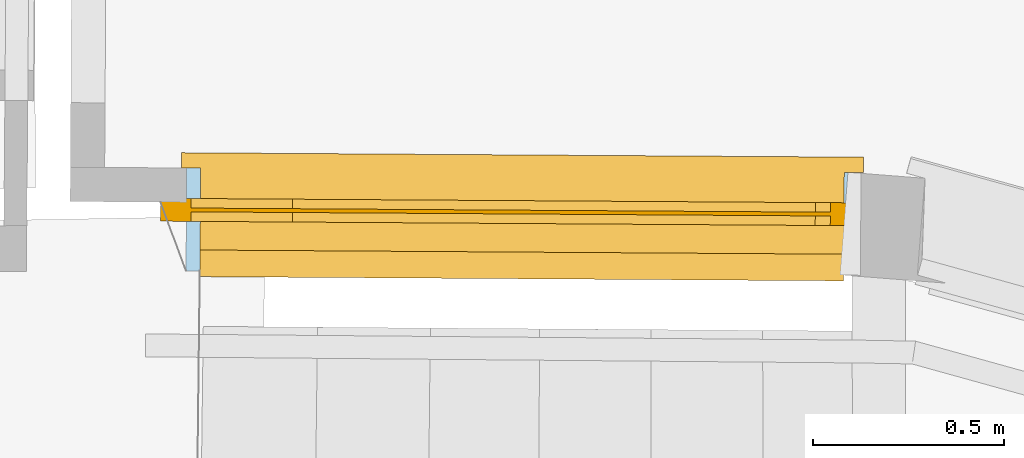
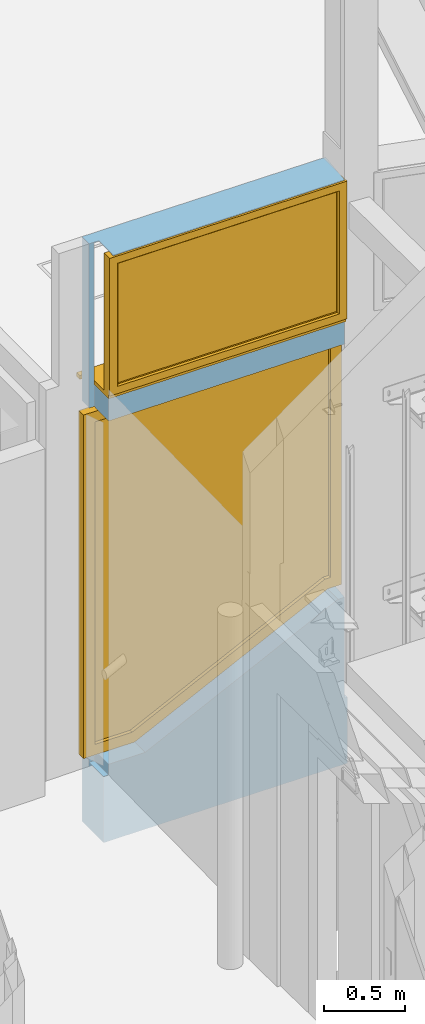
# One storey, part 101 of 133: 2 windows, 2 openings, plus 1 element that does not belong to this part.
"""IFC2X3 building model written with IfcOpenShell, lengths in centimetres."""

from ifc_helpers import new_model, entity, si_unit, converted_unit, direction, frame, origin, origin_with_axes, origin_2d_with_axis, place, context, subcontext, project, spatial, polyline, rectangle, outline, extrude, clip, bounded_halfspace, faceted_brep, shape, source, transform, mapped, material, material_list, layer, layer_set, layer_usage, type_object, element, fill, save


model = new_model("IFC2X3")

# Units and contexts
model_context = context("Model", 3, precision=0.0001, world=origin(), true_north=direction((0.225632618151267, 0.974212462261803, 0.0)))
body_context = subcontext(model_context, "Body", "Model", "MODEL_VIEW")
footprint_context = subcontext(model_context, "FootPrint", "Model", "MODEL_VIEW")
profile_context = subcontext(model_context, "Profile", "Model", "MODEL_VIEW")
ifc_project = project(units=[si_unit("LENGTHUNIT", "METRE", prefix="CENTI"), si_unit("AREAUNIT", "SQUARE_METRE", prefix="CENTI"), si_unit("VOLUMEUNIT", "CUBIC_METRE", prefix="CENTI"), converted_unit("PLANEANGLEUNIT", "DEGREE", entity("IfcRatioMeasure", 0.0174532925), si_unit("PLANEANGLEUNIT", "RADIAN"), dimensions=[0, 0, 0, 0, 0, 0, 0])], contexts=[model_context])

# Site, building, storey
site_placement = place(None, origin_with_axes())
site = spatial("IfcSite", under=ifc_project, at=site_placement, Name="Default Site", CompositionType="ELEMENT")
building_placement = place(site_placement, origin_with_axes())
building = spatial("IfcBuilding", under=site, at=building_placement, Name="Default Building", CompositionType="ELEMENT")
storey_placement = place(building_placement, frame((0.0, 0.0, -291.400371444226), z_axis=(0.0, 0.0, 1.0), x_axis=(1.0, 0.0, 0.0)))
storey = spatial("IfcBuildingStorey", under=building, at=storey_placement, Name="Rez-de-Jardin", CompositionType="ELEMENT", Elevation=-291.400371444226)

# Wall, openings, windows
ifc_material_1 = material(Name="<aucun>")
ifc_layer = layer(ifc_material_1, 27.0)
ifc_layer_set = layer_set([ifc_layer], Name="default")
ifc_layer_usage = layer_usage(ifc_layer_set, "AXIS2", "POSITIVE", -13.5)
wall_type = type_object("IfcWallType", Name="default 270", PredefinedType="NOTDEFINED", material=ifc_layer_set)
wall_placement = place(storey_placement, frame((1291.19052133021, -210.946666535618, -50.0), z_axis=(0.0, 0.0, 1.0), x_axis=(-0.999978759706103, 0.00651767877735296, 0.0)))
wall = element("IfcWallStandardCase", 1, at=wall_placement, inside=storey, type_object=wall_type, material=ifc_layer_usage, Name="Enveloppe 777845", context=body_context, shape_type="Clipping", body=[
    clip(clip(clip(clip(extrude(rectangle(XDim=27.0, YDim=173.550623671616, at=origin_2d_with_axis()), frame((86.7753118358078, 3.99680288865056e-13, 1.33226762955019e-13), z_axis=(0.0, 0.0, 1.0), x_axis=(0.0, -1.0, 0.0)), (0.0, 0.0, 1.0), 441.400371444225), bounded_halfspace(frame((169.907845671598, 13.5000000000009, 49.9999999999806), z_axis=(0.0, 0.0, -1.0), x_axis=(-0.00525194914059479, -0.999986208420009, 0.0)), True, frame((169.907845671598, 13.5000000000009, 49.9999999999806), z_axis=(0.0, 0.0, 1.0), x_axis=(1.0, 0.0, 0.0)), polyline([(-0.0945363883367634, -18.0000000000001), (3.64277800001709, -18.0), (3.64277800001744, 0.0), (0.0, 4.44089209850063e-14), (-0.0945363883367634, -18.0000000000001)]))), bounded_halfspace(frame((0.966032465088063, 13.5, 49.9999999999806), z_axis=(0.0, 0.0, -1.0), x_axis=(0.997443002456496, -0.0714664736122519, 0.0)), True, frame((0.966032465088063, 13.5, 49.9999999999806), z_axis=(0.0, 0.0, 1.0), x_axis=(1.0, 0.0, 0.0)), polyline([(0.0, 0.0), (0.963562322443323, -0.0690389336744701), (0.968508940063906, 0.0), (0.0, 0.0)]))), bounded_halfspace(frame((1.77635683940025e-13, -13.5, 49.9999999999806), z_axis=(0.0, 0.0, -1.0), x_axis=(0.0714664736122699, 0.997443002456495, 0.0)), True, frame((1.77635683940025e-13, -13.5, 49.9999999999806), z_axis=(0.0, 0.0, 1.0), x_axis=(1.0, 0.0, 0.0)), polyline([(1.77635683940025e-13, 2.22044604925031e-14), (1.92959478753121, 26.9309610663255), (0.966032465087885, 27.0), (-1.77635683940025e-13, 27.0), (1.77635683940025e-13, 2.22044604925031e-14)]))), bounded_halfspace(frame((169.907845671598, 13.5000000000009, 341.413221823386), z_axis=(0.0, 0.0, -1.0), x_axis=(-1.0, 1.53800583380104e-14, 0.0)), True, frame((169.907845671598, 13.5000000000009, 341.413221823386), z_axis=(0.0, 0.0, 1.0), x_axis=(1.0, 0.0, 0.0)), polyline([(-3.48228520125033, -18.0000000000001), (-0.0945363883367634, -18.0000000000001), (0.0, 4.44089209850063e-14), (-3.33606360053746, 0.0), (-3.48228520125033, -18.0000000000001)]))),
])
opening_1_placement = place(wall_placement, frame((143.860171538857, 7.38964445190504e-13, 58.0000000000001), z_axis=(0.0, 0.0, 1.0), x_axis=(-1.0, -5.08187242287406e-15, 0.0)))
cartesian_point_1 = entity("IfcCartesianPoint", [147.30105631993, 4.44089209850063e-14, 259.500001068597])
cartesian_point_2 = entity("IfcCartesianPoint", [-36.4652544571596, -13.5])
opening_1 = element("IfcOpeningElement", 2, at=opening_1_placement, cuts=wall, Name="4294966503_17", ObjectType="Opening", shapes=[
    shape(body_context, "Body", "SweptSolid", [extrude(outline(polyline([(-147.30105631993, 259.500001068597), (-147.30105631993, 68.1000010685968), (-137.232650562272, 68.1000010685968), (1.77635683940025e-13, 0.0), (36.4652544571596, 0.0), (36.4652544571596, 259.500001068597), (-147.30105631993, 259.500001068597)])), frame((0.0, -23.5, 0.0), z_axis=(0.0, 1.0, 0.0), x_axis=(-1.0, 0.0, 0.0)), (0.0, 0.0, 1.0), 47.0)]),
    shape(profile_context, "Profile", "GeometricCurveSet", [entity("IfcGeometricCurveSet", [entity("IfcPolyline", [cartesian_point_1, entity("IfcCartesianPoint", [147.30105631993, 4.44089209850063e-14, 68.1000010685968]), entity("IfcCartesianPoint", [137.232650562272, 0.0, 68.1000010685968]), entity("IfcCartesianPoint", [0.0, 0.0, 0.0]), entity("IfcCartesianPoint", [-36.4652544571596, 0.0, 0.0]), entity("IfcCartesianPoint", [-36.4652544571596, 0.0, 259.500001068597]), cartesian_point_1])])]),
    shape(footprint_context, "FootPrint", "GeometricCurveSet", [entity("IfcGeometricCurveSet", [entity("IfcPolyline", [cartesian_point_2, entity("IfcCartesianPoint", [147.30105631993, -13.5]), entity("IfcCartesianPoint", [147.30105631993, 13.5]), entity("IfcCartesianPoint", [-36.4652544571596, 13.5]), cartesian_point_2])])]),
])
opening_2_placement = place(wall_placement, frame((0.964797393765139, 5.6843418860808e-14, 337.0), z_axis=(0.0, 0.0, 1.0), x_axis=(-1.0, -5.08187242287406e-15, 0.0)))
cartesian_point_3 = entity("IfcCartesianPoint", [-1.77635683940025e-13, 0.0, 104.0])
cartesian_point_4 = entity("IfcCartesianPoint", [-168.943048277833, -13.5])
opening_2 = element("IfcOpeningElement", 3, at=opening_2_placement, cuts=wall, Name="4294966499_11", ObjectType="Opening", shapes=[
    shape(body_context, "Body", "SweptSolid", [extrude(outline(polyline([(1.77635683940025e-13, 104.0), (1.77635683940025e-13, -2.99999999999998), (168.943048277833, -2.99999999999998), (168.943048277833, 104.0), (1.77635683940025e-13, 104.0)])), frame((0.0, -23.5, 0.0), z_axis=(0.0, 1.0, 0.0), x_axis=(-1.0, 0.0, 0.0)), (0.0, 0.0, 1.0), 47.0)]),
    shape(profile_context, "Profile", "GeometricCurveSet", [entity("IfcGeometricCurveSet", [entity("IfcPolyline", [cartesian_point_3, entity("IfcCartesianPoint", [-1.77635683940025e-13, 0.0, 6.93889390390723e-16]), entity("IfcCartesianPoint", [-168.943048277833, 4.44089209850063e-14, 6.93889390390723e-16]), entity("IfcCartesianPoint", [-168.943048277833, 4.44089209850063e-14, 104.0]), cartesian_point_3])])]),
    shape(footprint_context, "FootPrint", "GeometricCurveSet", [entity("IfcGeometricCurveSet", [entity("IfcPolyline", [cartesian_point_4, entity("IfcCartesianPoint", [-1.77635683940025e-13, -13.5]), entity("IfcCartesianPoint", [0.0, 13.5]), entity("IfcCartesianPoint", [-168.943048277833, 13.5]), cartesian_point_4])])]),
])
ifc_material_2 = material(Name="Transparent")
ifc_material_3 = material(Name="Blanc trafic")
ifc_material_list_1 = material_list([ifc_material_2, ifc_material_3])
window_style_1 = type_object("IfcWindowStyle", Name="FN triangulaire_3", ConstructionType="NOTDEFINED", OperationType="NOTDEFINED", ParameterTakesPrecedence=False, Sizeable=False, material=ifc_material_list_1)
shared_shape = source(origin_with_axes(), body_context, "Body", "Brep", [
    faceted_brep([(-87.8831565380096, 125.750005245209, -2.99999993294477), (-87.8831565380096, 125.750005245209, 2.99999993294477), (-87.8831565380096, -57.6499998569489, 2.99999993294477), (-87.8831565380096, -57.6499998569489, -2.99999993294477), (-91.8831527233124, 129.750001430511, 2.99999993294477), (-91.8831527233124, -61.6500020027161, 2.99999993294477), (-91.8831527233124, 129.750001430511, -2.99999993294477), (-91.8831527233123, -61.6500020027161, -2.99999993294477), (-91.8831527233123, -61.6500020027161, 2.99999993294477), (-91.8831527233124, -61.6500020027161, -2.99999993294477), (-80.8768391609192, -57.6499998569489, 2.99999993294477), (-80.8768391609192, -57.6499998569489, -2.99999993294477), (-81.8147480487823, -61.6500020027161, 2.99999993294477), (-81.8147480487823, -61.6500020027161, -2.99999993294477), (56.3558106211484, -125.750004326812, 2.99999993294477), (56.3558106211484, -125.750004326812, -2.99999993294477), (55.4179012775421, -129.750001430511, 2.99999993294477), (56.3558101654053, -125.750005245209, 2.99999993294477), (55.4178993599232, -129.750005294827, -2.99999993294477), (55.4178993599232, -129.750005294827, 2.99999993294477), (56.3558101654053, -125.750005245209, -2.99999993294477), (55.4179012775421, -129.750001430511, -2.99999993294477), (87.8831565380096, -125.750005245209, 2.99999993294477), (87.8831565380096, -125.750005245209, -2.99999993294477), (91.8831527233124, -129.750001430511, 2.99999993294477), (91.8831527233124, -129.750001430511, -2.99999993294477), (87.8831565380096, 125.750005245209, 2.99999993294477), (87.8831565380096, 125.750005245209, -2.99999993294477), (91.8831527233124, 129.750001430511, 2.99999993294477), (91.8831527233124, 129.750001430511, -2.99999993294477)], [[[0, 1, 2, 3]], [[1, 4, 5, 2]], [[4, 6, 7, 8]], [[6, 0, 3, 9]], [[3, 2, 10, 11]], [[2, 5, 12, 10]], [[5, 9, 13, 12]], [[9, 3, 11, 13]], [[11, 10, 14, 15]], [[10, 12, 16, 17]], [[12, 13, 18, 19]], [[13, 11, 20, 21]], [[20, 17, 22, 23]], [[17, 16, 24, 22]], [[16, 21, 25, 24]], [[21, 20, 23, 25]], [[23, 22, 26, 27]], [[22, 24, 28, 26]], [[24, 25, 29, 28]], [[25, 23, 27, 29]], [[27, 26, 1, 0]], [[26, 28, 4, 1]], [[28, 29, 6, 4]], [[29, 27, 0, 6]]]),
    faceted_brep([(-83.8831543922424, 121.749997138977, -2.99999993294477), (-83.8831543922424, 121.749997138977, 2.99999993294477), (-83.8831543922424, -53.6499977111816, 2.99999993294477), (-83.8831543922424, -53.6499977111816, -2.99999993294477), (-87.8831565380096, 125.750005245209, 2.99999993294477), (-87.8831565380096, -57.6499998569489, 2.99999993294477), (-87.8831565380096, 125.750005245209, -2.99999993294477), (-87.8831565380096, -57.6499998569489, -2.99999993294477), (-79.938930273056, -53.6499977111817, 2.99999993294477), (-79.938930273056, -53.6499977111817, -2.99999993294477), (-80.8768391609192, -57.6499998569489, 2.99999993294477), (-79.938930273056, -53.6499977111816, 2.99999993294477), (-80.8768391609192, -57.6499998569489, -2.99999993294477), (-79.938930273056, -53.6499977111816, -2.99999993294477), (57.2937171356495, -121.750001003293, 2.99999993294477), (57.2937171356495, -121.750001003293, -2.99999993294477), (56.3558101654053, -125.750005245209, 2.99999993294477), (57.2937190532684, -121.749997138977, 2.99999993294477), (56.3558106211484, -125.750004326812, -2.99999993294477), (56.3558106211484, -125.750004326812, 2.99999993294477), (57.2937190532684, -121.749997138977, -2.99999993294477), (56.3558101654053, -125.750005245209, -2.99999993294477), (83.8831543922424, -121.749997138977, 2.99999993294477), (83.8831543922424, -121.749997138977, -2.99999993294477), (87.8831565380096, -125.750005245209, 2.99999993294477), (87.8831565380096, -125.750005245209, -2.99999993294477), (83.8831543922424, 121.749997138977, 2.99999993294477), (83.8831543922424, 121.749997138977, -2.99999993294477), (87.8831565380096, 125.750005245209, 2.99999993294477), (87.8831565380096, 125.750005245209, -2.99999993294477)], [[[0, 1, 2, 3]], [[1, 4, 5, 2]], [[4, 6, 7, 5]], [[6, 0, 3, 7]], [[3, 2, 8, 9]], [[2, 5, 10, 11]], [[5, 7, 12, 10]], [[7, 3, 13, 12]], [[13, 11, 14, 15]], [[11, 10, 16, 17]], [[10, 12, 18, 19]], [[12, 13, 20, 21]], [[20, 17, 22, 23]], [[17, 16, 24, 22]], [[16, 21, 25, 24]], [[21, 20, 23, 25]], [[23, 22, 26, 27]], [[22, 24, 28, 26]], [[24, 25, 29, 28]], [[25, 23, 27, 29]], [[27, 26, 1, 0]], [[26, 28, 4, 1]], [[28, 29, 6, 4]], [[29, 27, 0, 6]]]),
    faceted_brep([(83.8831543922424, 121.749997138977, -0.499999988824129), (83.8831543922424, -121.749997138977, -0.499999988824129), (57.2937190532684, -121.749997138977, -0.499999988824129), (-79.938930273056, -53.6499977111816, -0.499999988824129), (-83.8831543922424, -53.6499977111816, -0.499999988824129), (-83.8831543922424, 121.749997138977, -0.499999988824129), (-83.8831543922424, 121.749997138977, 0.499999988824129), (-83.8831543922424, -53.6499977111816, 0.499999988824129), (-79.938930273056, -53.6499977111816, 0.499999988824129), (57.2937190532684, -121.749997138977, 0.499999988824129), (83.8831543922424, -121.749997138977, 0.499999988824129), (83.8831543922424, 121.749997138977, 0.499999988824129), (57.2937171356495, -121.750001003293, -0.499999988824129), (57.2937171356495, -121.750001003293, 0.499999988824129)], [[[0, 1, 2, 3, 4, 5]], [[6, 7, 8, 9, 10, 11]], [[5, 4, 7, 6]], [[4, 3, 8, 7]], [[3, 12, 13, 8]], [[2, 1, 10, 9]], [[1, 0, 11, 10]], [[0, 5, 6, 11]]]),
])
window_1_placement = place(opening_1_placement, frame((55.417900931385, -0.5, 129.750000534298), z_axis=(0.0, 0.0, 1.0), x_axis=(1.0, 0.0, 0.0)))
window_1 = element("IfcWindow", 4, at=window_1_placement, inside=storey, type_object=window_style_1, material=ifc_material_list_1, Name="Fenêtre 1533943", OverallHeight=259.500001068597, OverallWidth=183.76631077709, context=body_context, shape_type="MappedRepresentation", body=[
    mapped(shared_shape, transform((1.77635683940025e-13, 2.99999999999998, 2.22044604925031e-14), x_axis=(-1.0, 0.0, 0.0), y_axis=(0.0, 0.0, 1.0), z_axis=(0.0, 1.0, 0.0), scale=1.0, scale2=1.0, scale3=1.0, uniform=False)),
])
fill(opening_1, window_1)
ifc_material_4 = material(Name="Blanc trafic")
ifc_material_list_2 = material_list([ifc_material_2, ifc_material_4, ifc_material_3])
window_style_2 = type_object("IfcWindowStyle", Name="F[R] VV", ConstructionType="NOTDEFINED", OperationType="SINGLE_PANEL", ParameterTakesPrecedence=True, Sizeable=False, material=ifc_material_list_2)
window_2_placement = place(opening_2_placement, frame((-168.943048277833, -8.0, 0.0), z_axis=(0.0, 0.0, 1.0), x_axis=(1.0, 0.0, 0.0)))
window_2 = element("IfcWindow", 5, at=window_2_placement, inside=storey, type_object=window_style_2, material=ifc_material_list_2, Name="Fenêtre 956421", OverallHeight=104.0, OverallWidth=168.943048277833, context=body_context, shape_type="Brep", body=[
    faceted_brep([(-2.31142694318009e-05, -5.50001056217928, 5.66246861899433e-08), (168.943060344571, -5.50000617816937, 5.66246861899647e-08), (168.943035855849, 21.5000049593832, 5.6624817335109e-08), (173.943065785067, 21.5000017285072, 5.66248173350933e-08), (173.943030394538, 25.499999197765, 5.66248367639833e-08), (-5.00001755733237, 25.5000018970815, 5.66248367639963e-08), (-4.99998216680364, 21.5000044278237, 5.66248173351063e-08), (-4.76029919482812e-05, 21.5000005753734, 5.66248173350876e-08), (-4.76029919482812e-05, 21.5000005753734, -2.99999969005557), (-4.99998216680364, 21.5000044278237, -2.99999969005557), (-5.00001755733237, 25.5000018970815, -2.99999969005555), (173.943030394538, 25.499999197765, -2.99999969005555), (173.943065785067, 21.5000017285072, -2.99999969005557), (168.943035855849, 21.5000049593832, -2.99999969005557), (168.943060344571, -5.50000617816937, -2.99999969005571), (-2.31142694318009e-05, -5.50001056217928, -2.99999969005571), (-4.76029919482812e-05, 21.5000005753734, 5.66246861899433e-08), (-4.99998216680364, 21.5000005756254, 5.66246861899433e-08), (-4.99998216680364, 21.5000005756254, -2.99999969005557), (-4.99998216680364, 21.5000044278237, 5.66246861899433e-08), (-4.99998216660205, 25.5000018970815, 5.66246861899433e-08), (-4.99998216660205, 25.5000018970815, -2.99999969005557), (-5.00001755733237, 25.5000018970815, 5.66246861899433e-08), (173.943030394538, 25.5000018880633, 5.66246861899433e-08), (173.943030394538, 25.5000018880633, -2.99999969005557), (-5.00001755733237, 25.5000018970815, -2.99999969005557), (173.943030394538, 25.499999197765, 5.66246861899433e-08), (173.943030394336, 21.5000017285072, 5.66246861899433e-08), (173.943030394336, 21.5000017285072, -2.99999969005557), (173.943030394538, 25.499999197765, -2.99999969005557), (173.943065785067, 21.5000017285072, 5.66246861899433e-08), (168.943035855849, 21.5000017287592, 5.66246861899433e-08), (168.943035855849, 21.5000017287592, -2.99999969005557), (168.943035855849, 21.5000049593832, 5.66246861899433e-08), (168.943035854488, -5.50000617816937, 5.66246861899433e-08), (168.943035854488, -5.50000617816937, -2.99999969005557), (168.943060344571, -5.50000617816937, 5.66246861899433e-08), (-2.31142694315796e-05, -5.50000616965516, 5.66246861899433e-08), (-2.31142694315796e-05, -5.50000616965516, -2.99999969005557), (168.943060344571, -5.50000617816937, -2.99999969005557), (-2.31129087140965e-05, 21.5000005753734, 5.66246861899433e-08), (-2.31129087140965e-05, 21.5000005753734, -2.99999969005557), (-2.31142694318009e-05, -5.50001056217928, -2.99999969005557)], [[[0, 1, 2, 3, 4, 5, 6, 7]], [[8, 9, 10, 11, 12, 13, 14, 15]], [[16, 17, 18, 8]], [[19, 20, 21, 9]], [[22, 23, 24, 25]], [[26, 27, 28, 29]], [[30, 31, 32, 12]], [[33, 34, 35, 13]], [[36, 37, 38, 39]], [[0, 40, 41, 42]]]),
    faceted_brep([(163.44304718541, -7.00000002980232, 98.5000014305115), (162.443047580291, -6.0000004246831, 97.5000023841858), (162.443047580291, -6.0000004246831, 6.49999976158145), (163.44304718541, -7.00000002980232, 5.4999999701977), (162.443048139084, -5.99999986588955, 97.5000023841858), (162.443048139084, -0.999999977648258, 97.5000023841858), (162.443048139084, -0.999999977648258, 6.49999976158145), (162.443048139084, -5.99999986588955, 6.49999976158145), (163.443047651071, -4.65661287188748e-07, 98.5000014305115), (163.443047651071, -4.65661287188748e-07, 5.4999999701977), (163.44304718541, 0.0, 98.5000014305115), (168.943047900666, 0.0, 103.999996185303), (168.943047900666, 0.0, 1.13797860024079e-13), (163.44304718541, 0.0, 5.4999999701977), (168.943047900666, -7.00000002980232, 103.999996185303), (168.943047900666, -7.00000002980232, 1.13797860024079e-13), (162.443048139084, -6.00000005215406, 6.49999994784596), (6.50000013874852, -6.00000005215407, 6.49999994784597), (5.50000109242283, -7.00000002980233, 5.49999997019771), (6.50000013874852, -0.999999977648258, 6.49999976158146), (6.50000013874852, -5.99999986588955, 6.49999976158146), (163.44304718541, -9.31322578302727e-08, 5.49999987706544), (5.50000109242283, -9.31322539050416e-08, 5.49999987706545), (6.50000013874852, -0.999999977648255, 6.49999976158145), (3.77167097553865e-07, 0.0, 1.13797860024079e-13), (5.50000109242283, 0.0, 5.4999999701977), (3.77167097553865e-07, -7.00000002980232, 1.13797860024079e-13), (5.50000109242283, -7.00000002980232, 5.4999999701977), (6.50000069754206, -6.00000042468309, 6.49999976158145), (6.50000069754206, -6.00000042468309, 97.5000023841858), (5.50000109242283, -7.00000002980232, 98.5000014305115), (6.50000013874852, -5.99999986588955, 6.49999976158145), (6.50000013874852, -0.999999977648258, 6.49999976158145), (6.50000013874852, -0.999999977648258, 97.5000023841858), (6.50000013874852, -5.99999986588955, 97.5000023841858), (5.50000062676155, -4.65661288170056e-07, 5.4999999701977), (5.50000062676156, -4.65661276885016e-07, 98.5000014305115), (6.50000013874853, -0.999999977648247, 97.5000023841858), (3.77167097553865e-07, 0.0, 103.999996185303), (5.50000109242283, 0.0, 98.5000014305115), (3.77167097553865e-07, -7.00000002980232, 103.999996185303), (6.50000013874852, -6.00000042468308, 97.5000018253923), (162.443048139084, -6.00000042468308, 97.5000018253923), (5.50000109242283, -4.65661287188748e-07, 98.5000018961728), (163.44304718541, -4.6566129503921e-07, 98.5000018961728), (162.443048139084, -0.999999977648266, 97.5000023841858)], [[[0, 1, 2, 3]], [[4, 5, 6, 7]], [[5, 8, 9, 6]], [[10, 11, 12, 13]], [[11, 14, 15, 12]], [[14, 0, 3, 15]], [[3, 16, 17, 18]], [[7, 6, 19, 20]], [[6, 21, 22, 23]], [[13, 12, 24, 25]], [[12, 15, 26, 24]], [[15, 3, 27, 26]], [[27, 28, 29, 30]], [[31, 32, 33, 34]], [[32, 35, 36, 37]], [[25, 24, 38, 39]], [[24, 26, 40, 38]], [[26, 27, 30, 40]], [[30, 41, 42, 0]], [[34, 33, 5, 4]], [[33, 43, 44, 45]], [[39, 38, 11, 10]], [[38, 40, 14, 11]], [[40, 30, 0, 14]]]),
    faceted_brep([(6.50000013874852, -4.89999987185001, 97.5000023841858), (6.50000013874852, -4.89999987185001, 6.49999976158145), (162.443048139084, -4.89999987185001, 6.49999976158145), (162.443048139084, -4.89999987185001, 97.5000023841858), (162.443048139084, -2.09999997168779, 97.5000023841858), (162.443048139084, -2.09999997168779, 6.49999976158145), (6.50000013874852, -2.09999997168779, 6.49999976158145), (6.50000013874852, -2.09999997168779, 97.5000023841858)], [[[0, 1, 2, 3]], [[4, 5, 6, 7]], [[3, 2, 5, 4]], [[2, 1, 6, 5]], [[1, 0, 7, 6]], [[0, 3, 4, 7]]]),
])
fill(opening_2, window_2)

save(model, "model.ifc")
